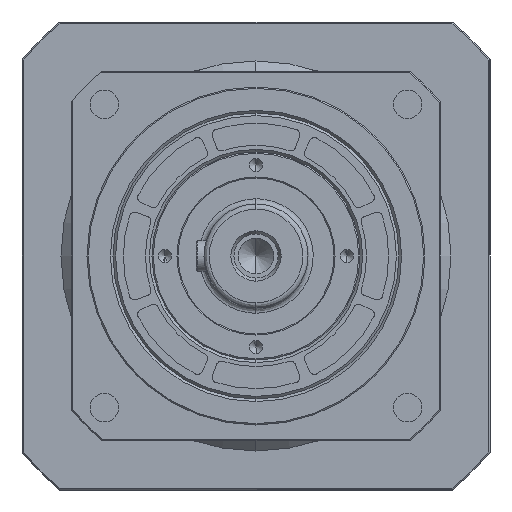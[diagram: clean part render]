
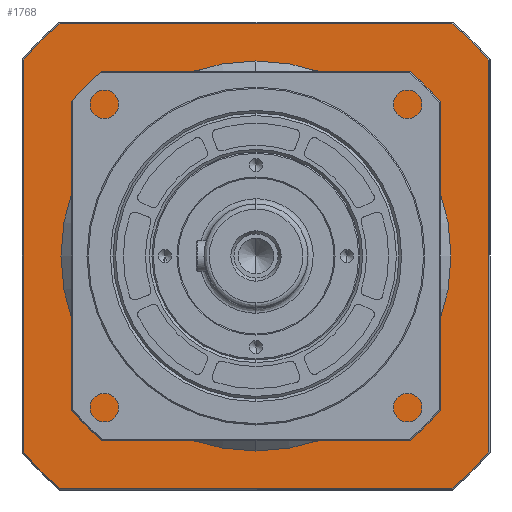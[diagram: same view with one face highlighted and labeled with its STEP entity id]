
A CAD part, left-side view. The second image highlights one B-rep face of the part: STEP entity #1768.
In plain terms, the highlighted planar face has unit normal (-1, 0, 0).
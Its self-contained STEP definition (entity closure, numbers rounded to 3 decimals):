
#414 = EDGE_CURVE ( 'NONE', #17810, #16948, #12183, .T. ) ;
#917 = DIRECTION ( 'NONE',  ( 0., 1., 0. ) ) ;
#988 = DIRECTION ( 'NONE',  ( 0., 0., -1. ) ) ;
#1030 = LINE ( 'NONE', #7669, #13369 ) ;
#1069 = CARTESIAN_POINT ( 'NONE',  ( 0., 0., 0. ) ) ;
#1351 = AXIS2_PLACEMENT_3D ( 'NONE', #9743, #8471, #5593 ) ;
#1681 = ORIENTED_EDGE ( 'NONE', *, *, #10836, .T. ) ;
#1768 = ADVANCED_FACE ( 'NONE', ( #14568, #5576 ), #14907, .T. ) ;
#1914 = VERTEX_POINT ( 'NONE', #8187 ) ;
#2367 = DIRECTION ( 'NONE',  ( 0., 0., -1. ) ) ;
#2420 = CARTESIAN_POINT ( 'NONE',  ( 0., 0., 0. ) ) ;
#2627 = CIRCLE ( 'NONE', #11073, 117. ) ;
#2719 = DIRECTION ( 'NONE',  ( 1., 0., 0. ) ) ;
#2904 = CIRCLE ( 'NONE', #7189, 117. ) ;
#3091 = LINE ( 'NONE', #4809, #6859 ) ;
#3190 = VERTEX_POINT ( 'NONE', #4598 ) ;
#3584 = DIRECTION ( 'NONE',  ( 0., 0., 1. ) ) ;
#3662 = ORIENTED_EDGE ( 'NONE', *, *, #16364, .F. ) ;
#3678 = DIRECTION ( 'NONE',  ( 0., 0., 1. ) ) ;
#3696 = VECTOR ( 'NONE', #4817, 1000. ) ;
#3977 = CARTESIAN_POINT ( 'NONE',  ( 0., 0., 0. ) ) ;
#4124 = CARTESIAN_POINT ( 'NONE',  ( 0., 89.5, 75.357 ) ) ;
#4133 = AXIS2_PLACEMENT_3D ( 'NONE', #3977, #2719, #9830 ) ;
#4161 = LINE ( 'NONE', #6402, #3696 ) ;
#4598 = CARTESIAN_POINT ( 'NONE',  ( 0., -75.357, 89.5 ) ) ;
#4694 = DIRECTION ( 'NONE',  ( 1., 0., 0. ) ) ;
#4753 = ORIENTED_EDGE ( 'NONE', *, *, #6844, .F. ) ;
#4809 = CARTESIAN_POINT ( 'NONE',  ( 0., 89.5, 90. ) ) ;
#4817 = DIRECTION ( 'NONE',  ( 0., 0., -1. ) ) ;
#5203 = DIRECTION ( 'NONE',  ( 1., 0., 0. ) ) ;
#5468 = ORIENTED_EDGE ( 'NONE', *, *, #6892, .F. ) ;
#5576 = FACE_OUTER_BOUND ( 'NONE', #15140, .T. ) ;
#5593 = DIRECTION ( 'NONE',  ( 0., 0., 1. ) ) ;
#5678 = VERTEX_POINT ( 'NONE', #17873 ) ;
#6360 = EDGE_CURVE ( 'NONE', #7212, #17810, #13908, .T. ) ;
#6402 = CARTESIAN_POINT ( 'NONE',  ( 0., -89.5, 90. ) ) ;
#6403 = CARTESIAN_POINT ( 'NONE',  ( 0., -75.357, -89.5 ) ) ;
#6458 = DIRECTION ( 'NONE',  ( -1., 0., 0. ) ) ;
#6844 = EDGE_CURVE ( 'NONE', #3190, #6977, #2627, .T. ) ;
#6859 = VECTOR ( 'NONE', #3678, 1000. ) ;
#6892 = EDGE_CURVE ( 'NONE', #16044, #7212, #7701, .T. ) ;
#6977 = VERTEX_POINT ( 'NONE', #7330 ) ;
#7189 = AXIS2_PLACEMENT_3D ( 'NONE', #13136, #4694, #13321 ) ;
#7212 = VERTEX_POINT ( 'NONE', #6403 ) ;
#7330 = CARTESIAN_POINT ( 'NONE',  ( 0., -89.5, 75.357 ) ) ;
#7568 = VERTEX_POINT ( 'NONE', #4124 ) ;
#7669 = CARTESIAN_POINT ( 'NONE',  ( 0., -90., 89.5 ) ) ;
#7701 = CIRCLE ( 'NONE', #4133, 117. ) ;
#7784 = ORIENTED_EDGE ( 'NONE', *, *, #17005, .F. ) ;
#8018 = DIRECTION ( 'NONE',  ( 1., 0., 0. ) ) ;
#8096 = ORIENTED_EDGE ( 'NONE', *, *, #15497, .F. ) ;
#8187 = CARTESIAN_POINT ( 'NONE',  ( 0., 75.357, 89.5 ) ) ;
#8392 = VECTOR ( 'NONE', #917, 1000. ) ;
#8437 = EDGE_CURVE ( 'NONE', #1914, #3190, #1030, .T. ) ;
#8471 = DIRECTION ( 'NONE',  ( 1., 0., 0. ) ) ;
#8580 = EDGE_LOOP ( 'NONE', ( #14092, #1681 ) ) ;
#9003 = CARTESIAN_POINT ( 'NONE',  ( 0., 89.5, -75.357 ) ) ;
#9256 = DIRECTION ( 'NONE',  ( 0., 0., 1. ) ) ;
#9743 = CARTESIAN_POINT ( 'NONE',  ( 0., 0., 0. ) ) ;
#9830 = DIRECTION ( 'NONE',  ( 0., 0., -1. ) ) ;
#10799 = ORIENTED_EDGE ( 'NONE', *, *, #6360, .F. ) ;
#10836 = EDGE_CURVE ( 'NONE', #5678, #13805, #12634, .T. ) ;
#11073 = AXIS2_PLACEMENT_3D ( 'NONE', #16539, #12097, #2367 ) ;
#11292 = CARTESIAN_POINT ( 'NONE',  ( 0., 0., 63. ) ) ;
#12097 = DIRECTION ( 'NONE',  ( 1., 0., 0. ) ) ;
#12137 = EDGE_CURVE ( 'NONE', #13805, #5678, #18142, .T. ) ;
#12183 = CIRCLE ( 'NONE', #15704, 117. ) ;
#12634 = CIRCLE ( 'NONE', #17380, 63. ) ;
#13136 = CARTESIAN_POINT ( 'NONE',  ( 0., 0., 0. ) ) ;
#13321 = DIRECTION ( 'NONE',  ( 0., 0., -1. ) ) ;
#13369 = VECTOR ( 'NONE', #14429, 1000. ) ;
#13429 = CARTESIAN_POINT ( 'NONE',  ( 0., 90., -90. ) ) ;
#13805 = VERTEX_POINT ( 'NONE', #11292 ) ;
#13908 = LINE ( 'NONE', #17792, #8392 ) ;
#14092 = ORIENTED_EDGE ( 'NONE', *, *, #12137, .T. ) ;
#14429 = DIRECTION ( 'NONE',  ( 0., -1., 0. ) ) ;
#14568 = FACE_BOUND ( 'NONE', #8580, .T. ) ;
#14638 = ORIENTED_EDGE ( 'NONE', *, *, #414, .F. ) ;
#14671 = AXIS2_PLACEMENT_3D ( 'NONE', #13429, #6458, #9256 ) ;
#14907 = PLANE ( 'NONE',  #14671 ) ;
#15140 = EDGE_LOOP ( 'NONE', ( #17444, #3662, #7784, #14638, #10799, #5468, #8096, #4753 ) ) ;
#15252 = CARTESIAN_POINT ( 'NONE',  ( 0., -89.5, -75.357 ) ) ;
#15497 = EDGE_CURVE ( 'NONE', #6977, #16044, #4161, .T. ) ;
#15704 = AXIS2_PLACEMENT_3D ( 'NONE', #2420, #5203, #988 ) ;
#16044 = VERTEX_POINT ( 'NONE', #15252 ) ;
#16364 = EDGE_CURVE ( 'NONE', #7568, #1914, #2904, .T. ) ;
#16539 = CARTESIAN_POINT ( 'NONE',  ( 0., 0., 0. ) ) ;
#16948 = VERTEX_POINT ( 'NONE', #9003 ) ;
#17005 = EDGE_CURVE ( 'NONE', #16948, #7568, #3091, .T. ) ;
#17380 = AXIS2_PLACEMENT_3D ( 'NONE', #1069, #8018, #3584 ) ;
#17444 = ORIENTED_EDGE ( 'NONE', *, *, #8437, .F. ) ;
#17792 = CARTESIAN_POINT ( 'NONE',  ( 0., -90., -89.5 ) ) ;
#17810 = VERTEX_POINT ( 'NONE', #18187 ) ;
#17873 = CARTESIAN_POINT ( 'NONE',  ( 0., 0., -63. ) ) ;
#18142 = CIRCLE ( 'NONE', #1351, 63. ) ;
#18187 = CARTESIAN_POINT ( 'NONE',  ( 0., 75.357, -89.5 ) ) ;
